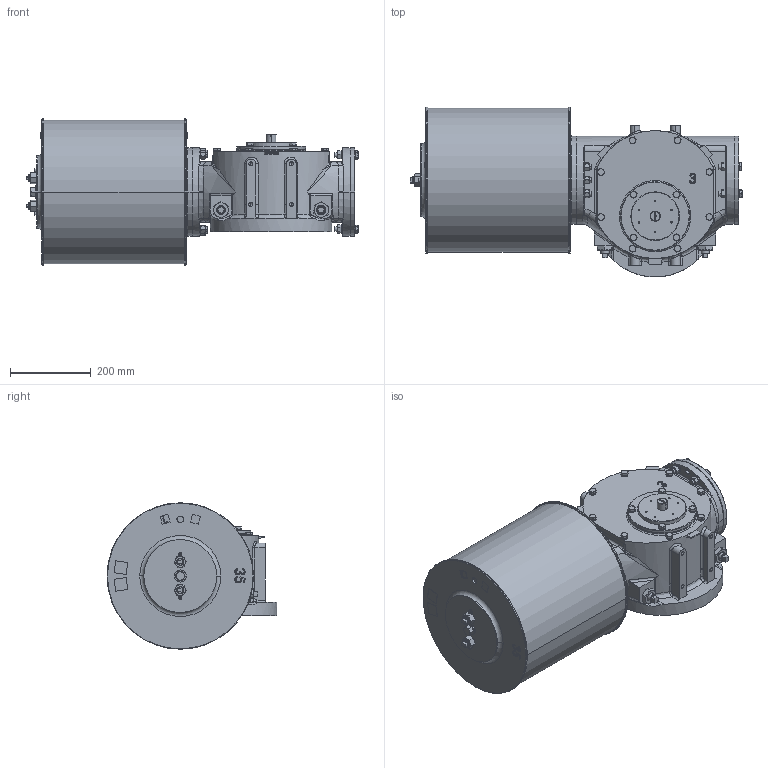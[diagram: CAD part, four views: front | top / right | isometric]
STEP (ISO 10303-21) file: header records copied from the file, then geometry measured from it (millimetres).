
FILE_DESCRIPTION (( 'STEP AP203' ), '1' );
FILE_NAME ('VTS3-350.STEP', '2023-01-01T09:09:27', ( '' ), ( '' ), 'SwSTEP 2.0', 'SolidWorks 2020', '' );
FILE_SCHEMA (( 'CONFIG_CONTROL_DESIGN' ));
Length unit declared in the file: millimetre
Products named in the file (1): VTS3-350
Bounding box: 820.68 x 420 x 362 mm (x, y, z)
Volume: 55620105.5 mm3; surface area: 1374761.2 mm2
Topology: 3 solids, 4 shells, 1660 faces, 4276 edges, 2703 vertices
Faces by surface type: plane 681, cylinder 476, cone 358, bspline 139, torus 6
Entity records: 66655 total; most frequent: CARTESIAN_POINT 27732, ORIENTED_EDGE 8450, DIRECTION 7761, EDGE_CURVE 4225, AXIS2_PLACEMENT_3D 3048, VERTEX_POINT 2703, EDGE_LOOP 1842, VECTOR 1665
